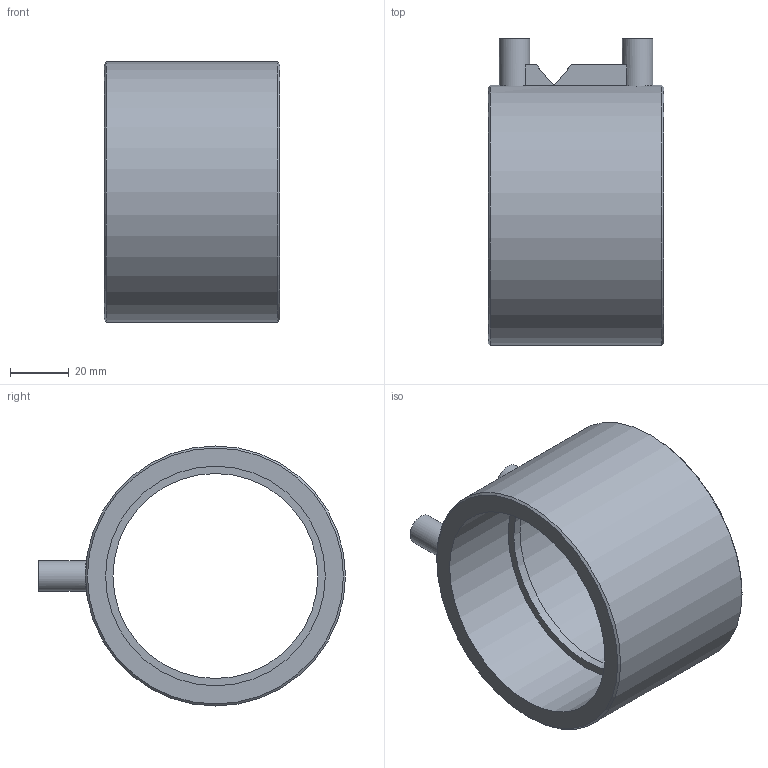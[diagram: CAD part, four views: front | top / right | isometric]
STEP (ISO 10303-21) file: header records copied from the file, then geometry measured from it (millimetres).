
FILE_DESCRIPTION(/* description */ (''),/* implementation_level */ '2;1');
FILE_NAME(/* name */ 'H:\Geberit-Teile\Export\Fertig zum Export\Elektro-Schweissmuffe_Ipart\stp\365771.stp',/* time_stamp */ '2017-07-24T13:33:16+02:00',/* author */ ('seihe2'),/* organization */ (''),/* preprocessor_version */ 'ST-DEVELOPER v15.2',/* originating_system */ 'Autodesk Inventor 2014',/* authorisation */ '');
FILE_SCHEMA (('AUTOMOTIVE_DESIGN { 1 0 10303 214 3 1 1 }'));
Length unit declared in the file: millimetre
Products named in the file (1): 365771
Bounding box: 60 x 104.8 x 88.8 mm (x, y, z)
Volume: 110762.8 mm3; surface area: 38340.8 mm2
Topology: 1 solids, 1 shells, 30 faces, 64 edges, 42 vertices
Faces by surface type: plane 14, cylinder 12, cone 4
Full cylindrical faces by diameter (mm): 7.4 x2, 10.4 x2, 70 x1, 75 x2, 76.9 x2, 88.8 x1
Entity records: 866 total; most frequent: CARTESIAN_POINT 242, DIRECTION 116, ORIENTED_EDGE 90, AXIS2_PLACEMENT_3D 52, EDGE_LOOP 51, EDGE_CURVE 45, VERTEX_POINT 36, STYLED_ITEM 31
